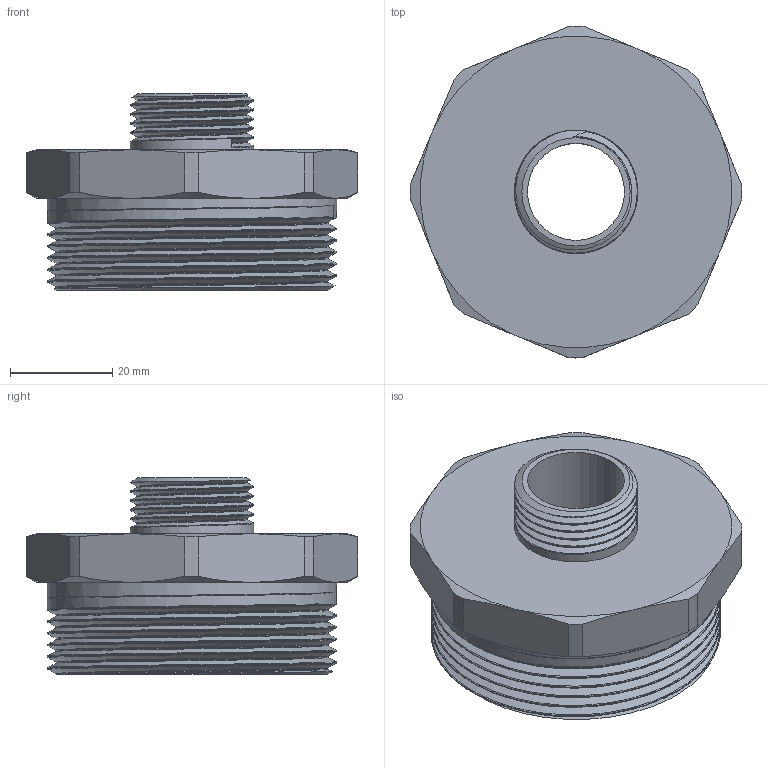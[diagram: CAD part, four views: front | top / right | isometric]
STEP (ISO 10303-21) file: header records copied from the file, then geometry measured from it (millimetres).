
FILE_DESCRIPTION(/* description */ (''),/* implementation_level */ '2;1');
FILE_NAME(/* name */ 'C:\Users\Doom\Desktop\Фадотех\Резьба\N21 17.03.2020\N21 17.03.2020.stp',/* time_stamp */ '2022-01-08T14:13:30+02:00',/* author */ ('Doom'),/* organization */ (''),/* preprocessor_version */ 'ST-DEVELOPER v18',/* originating_system */ 'Autodesk Inventor 2020',/* authorisation */ '');
FILE_SCHEMA (('AUTOMOTIVE_DESIGN { 1 0 10303 214 3 1 1 }'));
Length unit declared in the file: millimetre
Products named in the file (1): N21 17.03.2020
Bounding box: 65 x 65 x 38.5 mm (x, y, z)
Volume: 24474.1 mm3; surface area: 19002.4 mm2
Topology: 1 solids, 1 shells, 63 faces, 178 edges, 120 vertices
Faces by surface type: cylinder 24, plane 15, cone 12, bspline 12
Full cylindrical faces by diameter (mm): 19 x1, 24.17 x5, 50.5 x1, 56.65 x6
Entity records: 8395 total; most frequent: CARTESIAN_POINT 6868, ORIENTED_EDGE 356, DIRECTION 258, EDGE_CURVE 178, VERTEX_POINT 120, AXIS2_PLACEMENT_3D 104, EDGE_LOOP 68, ADVANCED_FACE 63
